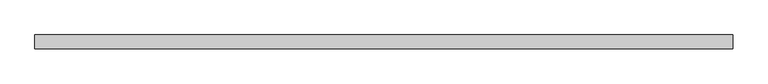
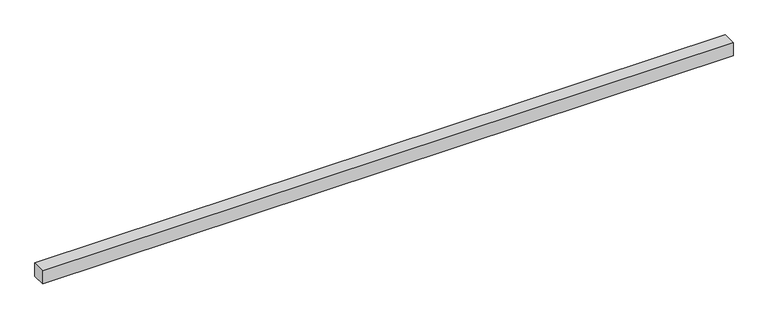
"""IFC4 building model written with IfcOpenShell, lengths in millimetres: proxy geometry, Кабель-каналы_магистральные_цвет-белый : Кабель-канал магистральный 40х40 белый."""

import ifcopenshell
import ifcopenshell.guid

model = None  # the IFC model being written
_history = None  # IfcOwnerHistory: only IFC2X3 demands one
_inside = {}  # id of a spatial element -> (the spatial element, [elements in it])
_under = {}  # id of a project, library or spatial element -> (it, [spatial elements below it])
_declared = {}  # id of a project -> (the project, [libraries it declares])
_typed = {}  # id of a type object -> (the type object, [elements of that type])
_made_of = {}  # id of a material, layer set ... -> (it, [elements and type objects made of it])


def new_model(schema):
    """Start an empty IFC model of exactly this schema.

    Asked for "IFC4X3", IfcOpenShell would pick the latest addendum, in which some entities
    have other attributes; the version numbers below select the first issue.
    IFC2X3 requires an IfcOwnerHistory on every rooted entity: one is made here for all.
    """
    global model, _history
    if schema == "IFC4X3":
        model = ifcopenshell.file(schema_version=(4, 3, 0, 0))
    else:
        model = ifcopenshell.file(schema=schema)
    _inside.clear()
    _under.clear()
    _declared.clear()
    _typed.clear()
    _made_of.clear()
    _history = None
    if model.schema == "IFC2X3":
        org = make("IfcOrganization", Name="unknown")
        user = make(
            "IfcPersonAndOrganization",
            ThePerson=make("IfcPerson", FamilyName="unknown"),
            TheOrganization=org,
        )
        app = make(
            "IfcApplication",
            ApplicationDeveloper=org,
            Version="unknown",
            ApplicationFullName="unknown",
            ApplicationIdentifier="unknown",
        )
        _history = make(
            "IfcOwnerHistory",
            OwningUser=user,
            OwningApplication=app,
            ChangeAction="ADDED",
            CreationDate=0,
        )
    return model


def make(cls, **values):
    """One entity of the class cls with the attributes given. An attribute that is None is left unset."""
    return model.create_entity(
        cls, **{name: value for name, value in values.items() if value is not None}
    )


def rooted(cls, **values):
    """An entity with a GlobalId (a new one), such as an element, a storey or a relation."""
    return make(cls, GlobalId=ifcopenshell.guid.new(), OwnerHistory=_history, **values)


def si_unit(unit_type, name, prefix=None):
    """IfcSIUnit, for example si_unit("LENGTHUNIT", "METRE", prefix="MILLI")."""
    return make("IfcSIUnit", UnitType=unit_type, Prefix=prefix, Name=name)


def assignment(units):
    """IfcUnitAssignment: the units of a project."""
    return None if units is None else make("IfcUnitAssignment", Units=units)


def point(xyz):
    """IfcCartesianPoint."""
    return None if xyz is None else make("IfcCartesianPoint", Coordinates=xyz)


def direction(xyz):
    """IfcDirection."""
    return None if xyz is None else make("IfcDirection", DirectionRatios=xyz)


def frame(location, z_axis=None, x_axis=None):
    """IfcAxis2Placement3D, a coordinate frame: its origin and axes. An axis left out is left unset."""
    return make(
        "IfcAxis2Placement3D",
        Location=point(location),
        Axis=direction(z_axis),
        RefDirection=direction(x_axis),
    )


def origin():
    """The frame at (0, 0, 0) with its axes left unset."""
    return frame((0.0, 0.0, 0.0))


def origin_with_axes():
    """The frame at (0, 0, 0) with the z axis (0, 0, 1) and the x axis (1, 0, 0) written out."""
    return frame((0.0, 0.0, 0.0), z_axis=(0.0, 0.0, 1.0), x_axis=(1.0, 0.0, 0.0))


def place(relative_to, where):
    """IfcLocalPlacement: puts the frame where relative to a parent placement (None: the world)."""
    return make(
        "IfcLocalPlacement", PlacementRelTo=relative_to, RelativePlacement=where
    )


def context(
    kind, dimensions, precision=None, world=None, true_north=None, identifier=None
):
    """IfcGeometricRepresentationContext, for example the 3D "Model" context."""
    return make(
        "IfcGeometricRepresentationContext",
        ContextIdentifier=identifier,
        ContextType=kind,
        CoordinateSpaceDimension=dimensions,
        Precision=precision,
        WorldCoordinateSystem=world,
        TrueNorth=true_north,
    )


def project(units=None, contexts=None):
    """IfcProject with its units and contexts."""
    return rooted(
        "IfcProject",
        Name="project",
        RepresentationContexts=contexts,
        UnitsInContext=assignment(units),
    )


def spatial(cls, under=None, at=None, **own):
    """A site, building, storey or space (cls), placed at a placement, below another one or the project."""
    s = rooted(cls, ObjectPlacement=at, **own)
    if under is not None:
        _under.setdefault(under.id(), (under, []))[1].append(s)
    return s


def polyline(points):
    """IfcPolyline through the points."""
    return make("IfcPolyline", Points=[point(p) for p in points])


def outline(outer, holes=None, kind="AREA"):
    """IfcArbitraryClosedProfileDef: a profile drawn as a closed curve; with holes, ...WithVoids."""
    if holes is None:
        return make("IfcArbitraryClosedProfileDef", ProfileType=kind, OuterCurve=outer)
    return make(
        "IfcArbitraryProfileDefWithVoids",
        ProfileType=kind,
        OuterCurve=outer,
        InnerCurves=holes,
    )


def extrude(swept, where, along, depth):
    """IfcExtrudedAreaSolid: the profile swept, set in the frame where, extruded along a direction by depth."""
    return make(
        "IfcExtrudedAreaSolid",
        SweptArea=swept,
        Position=where,
        ExtrudedDirection=direction(along),
        Depth=depth,
    )


def shape(context_of_items, identifier, shape_type, items):
    """IfcShapeRepresentation: the items that make up one representation, for example the "Body"."""
    return make(
        "IfcShapeRepresentation",
        ContextOfItems=context_of_items,
        RepresentationIdentifier=identifier,
        RepresentationType=shape_type,
        Items=items,
    )


def source(mapping_origin, context_of_items, identifier, shape_type, items):
    """IfcRepresentationMap: a shape defined once, which mapped items show again and again."""
    return make(
        "IfcRepresentationMap",
        MappingOrigin=mapping_origin,
        MappedRepresentation=shape(context_of_items, identifier, shape_type, items),
    )


def transform(
    local_origin,
    x_axis=None,
    y_axis=None,
    z_axis=None,
    scale=None,
    scale2=None,
    scale3=None,
    uniform=True,
):
    """IfcCartesianTransformationOperator3D, or its non-uniform kind. x_axis, y_axis, z_axis: its Axis1, 2, 3."""
    if uniform:
        return make(
            "IfcCartesianTransformationOperator3D",
            Axis1=direction(x_axis),
            Axis2=direction(y_axis),
            LocalOrigin=point(local_origin),
            Scale=scale,
            Axis3=direction(z_axis),
        )
    return make(
        "IfcCartesianTransformationOperator3DnonUniform",
        Axis1=direction(x_axis),
        Axis2=direction(y_axis),
        LocalOrigin=point(local_origin),
        Scale=scale,
        Axis3=direction(z_axis),
        Scale2=scale2,
        Scale3=scale3,
    )


def mapped(mapping_source, mapping_target):
    """IfcMappedItem: shows the shape of a source again, moved by a transform."""
    return make(
        "IfcMappedItem", MappingSource=mapping_source, MappingTarget=mapping_target
    )


def made_of(thing, what):
    """Note that an element or type object is made of a material, layer set ...; save() writes the relation."""
    if what is not None:
        _made_of.setdefault(what.id(), (what, []))[1].append(thing)
    return thing


def element(
    cls,
    number,
    at=None,
    inside=None,
    cuts=None,
    type_object=None,
    material=None,
    context=None,
    identifier="Body",
    shape_type=None,
    held_by="IfcProductDefinitionShape",
    body=None,
    shapes=None,
    **own,
):
    """One element of the class cls, such as IfcWall. Its Tag is "e" and its number.

    at: its placement. inside: the storey or other place that contains it. cuts: it is an
    opening in that element (IfcRelVoidsElement). A single representation is given by context,
    identifier, shape_type and body (its items); several are given by shapes. held_by: the class
    of the entity that holds the representations. save() writes the other relations.
    """
    e = rooted(cls, Tag="e%d" % number, ObjectPlacement=at, **own)
    if body is not None:
        shapes = [shape(context, identifier, shape_type, body)]
    if shapes is not None:
        e.Representation = make(held_by, Representations=shapes)
    if inside is not None:
        _inside.setdefault(inside.id(), (inside, []))[1].append(e)
    if cuts is not None:
        rooted(
            "IfcRelVoidsElement", RelatingBuildingElement=cuts, RelatedOpeningElement=e
        )
    if type_object is not None:
        _typed.setdefault(type_object.id(), (type_object, []))[1].append(e)
    return made_of(e, material)


def aggregate(whole, parts):
    """IfcRelAggregates: a whole, such as a stair, and the parts it consists of."""
    return rooted("IfcRelAggregates", RelatingObject=whole, RelatedObjects=parts)


def save(model, path):
    """Write the relations noted so far, then the file.

    IfcRelAggregates (storeys below a building ...), IfcRelContainedInSpatialStructure (elements
    in a storey), IfcRelDefinesByType, IfcRelAssociatesMaterial and IfcRelDeclares: one each for
    every whole, place, type object, material and project.
    """
    for whole, parts in _under.values():
        aggregate(whole, parts)
    for where, things in _inside.values():
        rooted(
            "IfcRelContainedInSpatialStructure",
            RelatedElements=things,
            RelatingStructure=where,
        )
    for kind, things in _typed.values():
        rooted("IfcRelDefinesByType", RelatedObjects=things, RelatingType=kind)
    for what, things in _made_of.values():
        rooted("IfcRelAssociatesMaterial", RelatedObjects=things, RelatingMaterial=what)
    for by, libraries in _declared.values():
        rooted("IfcRelDeclares", RelatingContext=by, RelatedDefinitions=libraries)
    model.write(path)


def generic_models_235e8585(model_context):
    return source(origin(), model_context, "Body", "SweptSolid", [
        extrude(outline(polyline([(2000.0, -40.0), (0.0, -40.0), (0.0, 0.0), (2000.0, 0.0), (2000.0, -40.0)])), origin_with_axes(), (0.0, 0.0, 1.0), 40.0),
    ])


if __name__ == "__main__":
    model = new_model("IFC4")
    model_context = context("Model", 3, world=origin())
    ifc_project = project(units=[si_unit("LENGTHUNIT", "METRE", prefix="MILLI")], contexts=[model_context])
    site = spatial("IfcSite", under=ifc_project)
    building = spatial("IfcBuilding", under=site)
    placement = place(None, origin())
    generic_models_shape = generic_models_235e8585(model_context)
    element("IfcBuildingElementProxy", 1, Name="Кабель-каналы_магистральные_цвет-белый : Кабель-канал магистральный 40х40 белый", ObjectType="Кабель-каналы_магистральные_цвет-белый : Кабель-канал магистральный 40х40 белый", at=placement, inside=building, context=model_context, shape_type="MappedRepresentation", body=[
        mapped(generic_models_shape, transform((0.0, 0.0, 0.0), x_axis=(1.0, 0.0, 0.0), y_axis=(0.0, 1.0, 0.0), z_axis=(0.0, 0.0, 1.0))),
    ])
    save(model, "model.ifc")
